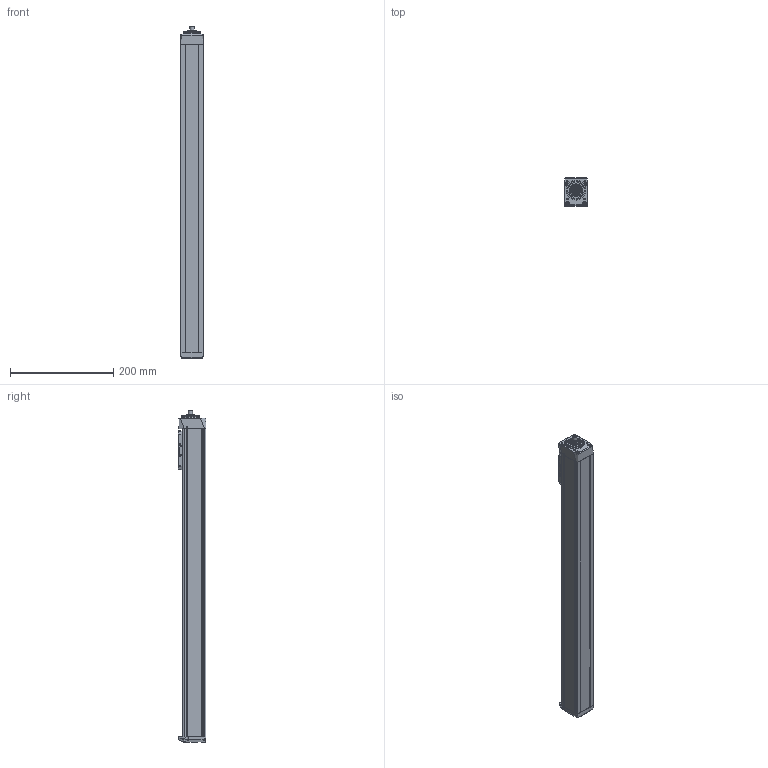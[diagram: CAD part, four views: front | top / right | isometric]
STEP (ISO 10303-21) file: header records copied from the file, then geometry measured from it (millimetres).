
FILE_DESCRIPTION(/* description */ ('STEP AP214'),/* implementation_level */ '2;1');
FILE_NAME(/* name */ 'MGBS 45 1003 500(0)',/* time_stamp */ '2023-04-12T11:09:23+02:00',/* author */ ('License CC BY-ND 4.0'),/* organization */ ('CADENAS'),/* preprocessor_version */ 'ST-DEVELOPER v19.3',/* originating_system */ 'PARTsolutions',/* authorisation */ ' ');
FILE_SCHEMA (('AUTOMOTIVE_DESIGN {1 0 10303 214 3 1 1}'));
Length unit declared in the file: millimetre
Products named in the file (6): MGBS 45 1003 500(0); MGBS 45 500_protection_strip; MGBS 45_carriage; MGBS 45_end_block; MGBS 45 500_profile; MGBS 45_drive_block
Assembly tree (5 placements, depth 2):
  MGBS 45 1003 500(0)
    MGBS 45 500_protection_strip
    MGBS 45_carriage
    MGBS 45_end_block
    MGBS 45 500_profile
    MGBS 45_drive_block
Bounding box: 45 x 54 x 643 mm (x, y, z)
Volume: 1232793.6 mm3; surface area: 201124.1 mm2
Topology: 5 solids, 5 shells, 655 faces, 1721 edges, 1113 vertices
Faces by surface type: plane 312, cylinder 156, cone 94, bspline 64, torus 27, sphere 2
Full cylindrical faces by diameter (mm): 1 x1, 1.755 x4, 2.459 x6, 2.46 x2, 2.5 x8, 3 x4, 3.242 x8, 3.8 x6, 4 x2, 4.5 x4, 5 x2, 5.5 x4, 6.5 x4, 8 x1, 11 x2, 16 x1, 24.5 x1, 34 x2, 38.2 x1
Entity records: 23967 total; most frequent: CARTESIAN_POINT 4130, DIRECTION 3272, ORIENTED_EDGE 3064, EDGE_CURVE 1532, AXIS2_PLACEMENT_3D 1183, VERTEX_POINT 1095, LINE 906, VECTOR 906
